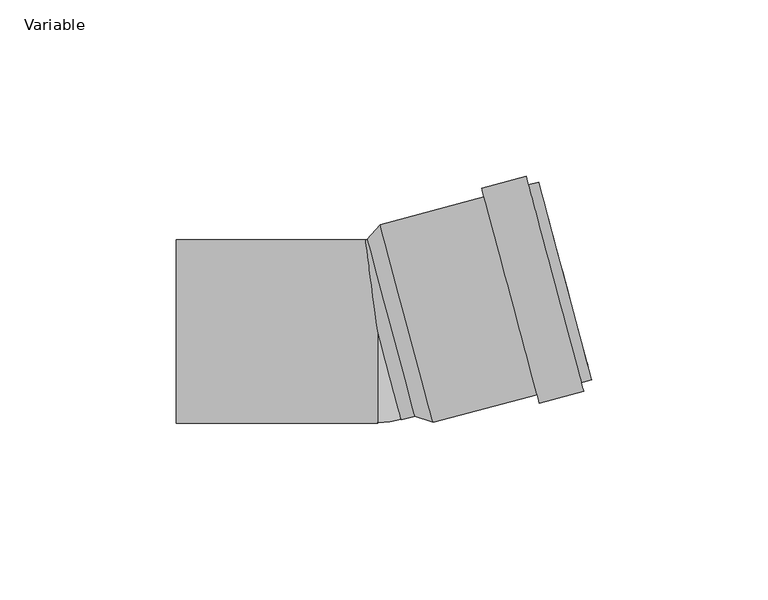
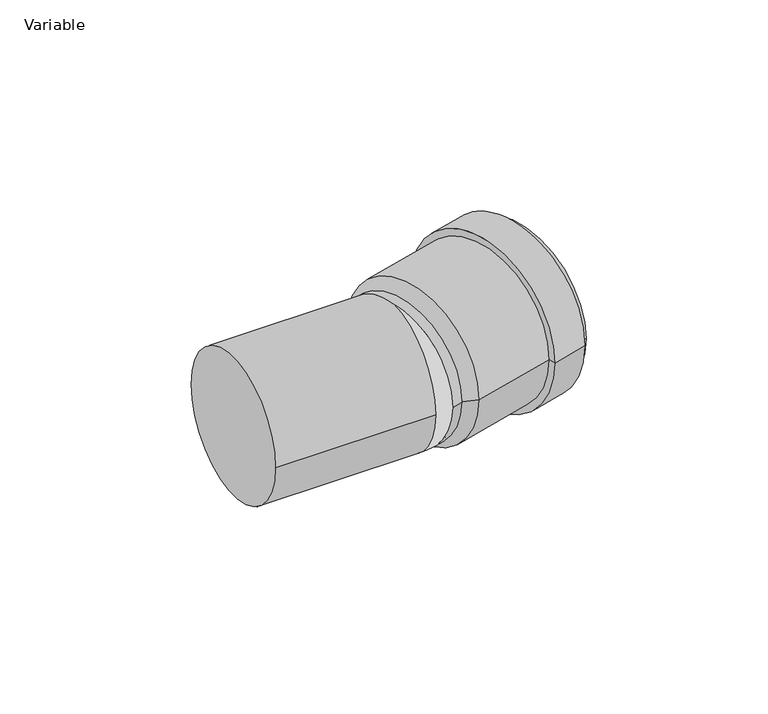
"""IFC4 building model written with IfcOpenShell, lengths in millimetres: pipe fitting geometry, AliaxisFR_Friaphon_ElbowMF_FR : Variable."""

from ifc_helpers import new_model, si_unit, point, frame, origin, place, context, project, spatial, polyline, circle_curve, ellipse_curve, trimmed, source, transform, mapped, element, save
from ifc_brep_helpers import plane_surface, cylinder_surface, revolved_surface, advanced_brep


def variable_0405d6f6(model_context):
    return source(origin(), model_context, "Body", "AdvancedBrep", [
        advanced_brep(
        [(60.6316728, -13.7768015, 0.0), (45.6201681, 42.2468964, 0.0), (46.3966253, 39.349119, 0.0), (59.8552156, -10.879024, 0.0), (45.8239071, -20.3327208, 0.0), (29.5183073, 40.5206063, 0.0), (42.075343, 43.8852539, 0.0), (58.3809429, -16.9680732, 0.0), (45.1768595, -17.9179062, 0.0), (30.1653549, 38.1057917, 0.0), (15.7161218, -25.8118871, 0.0), (0.7046172, 30.2118108, 0.0), (-2.8655919, 26.1493477, 0.0), (10.5929985, -24.0787953, 0.0), (57.7338953, -14.5532586, 0.0), (42.7223907, 41.4704393, 0.0)],
        [
            (0, 1, circle_curve(frame((53.1259204, 14.2350475, 0.0), z_axis=(0.9659258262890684, 0.25881904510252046, 0.0), x_axis=(-0.25881904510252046, 0.9659258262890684, 0.0)), 29.0)),
            (1, 2),
            (2, 3, circle_curve(frame((53.1259204, 14.2350475, 0.0), z_axis=(-0.9659258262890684, -0.25881904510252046, 0.0), x_axis=(-0.25881904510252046, 0.9659258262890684, 0.0)), 26.0)),
            (3, 0),
            (1, 0, circle_curve(frame((53.1259204, 14.2350475, 0.0), z_axis=(0.9659258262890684, 0.25881904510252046, 0.0), x_axis=(-0.25881904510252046, 0.9659258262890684, 0.0)), 29.0)),
            (3, 2, circle_curve(frame((53.1259204, 14.2350475, 0.0), z_axis=(-0.9659258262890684, -0.25881904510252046, 0.0), x_axis=(-0.25881904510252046, 0.9659258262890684, 0.0)), 26.0)),
            (4, 5, circle_curve(frame((37.6711072, 10.0939428, 0.0), z_axis=(0.9659258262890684, 0.25881904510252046, 0.0), x_axis=(-0.25881904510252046, 0.9659258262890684, 0.0)), 31.5)),
            (5, 6),
            (6, 7, circle_curve(frame((50.228143, 13.4585903, 0.0), z_axis=(-0.9659258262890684, -0.25881904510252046, 0.0), x_axis=(-0.25881904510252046, 0.9659258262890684, 0.0)), 31.5)),
            (7, 4),
            (5, 4, circle_curve(frame((37.6711072, 10.0939428, 0.0), z_axis=(0.9659258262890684, 0.25881904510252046, 0.0), x_axis=(-0.25881904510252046, 0.9659258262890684, 0.0)), 31.5)),
            (7, 6, circle_curve(frame((50.228143, 13.4585903, 0.0), z_axis=(-0.9659258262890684, -0.25881904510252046, 0.0), x_axis=(-0.25881904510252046, 0.9659258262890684, 0.0)), 31.5)),
            (8, 9, circle_curve(frame((37.6711072, 10.0939428, 0.0), z_axis=(0.9659258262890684, 0.25881904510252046, 0.0), x_axis=(-0.25881904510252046, 0.9659258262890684, 0.0)), 29.0)),
            (9, 5),
            (4, 8),
            (9, 8, circle_curve(frame((37.6711072, 10.0939428, 0.0), z_axis=(0.9659258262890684, 0.25881904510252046, 0.0), x_axis=(-0.25881904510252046, 0.9659258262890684, 0.0)), 29.0)),
            (10, 11, circle_curve(frame((8.2103695, 2.1999619, 0.0), z_axis=(0.9659258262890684, 0.25881904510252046, 0.0), x_axis=(-0.25881904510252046, 0.9659258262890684, 0.0)), 29.0)),
            (11, 9),
            (8, 10),
            (11, 10, circle_curve(frame((8.2103695, 2.1999619, 0.0), z_axis=(0.9659258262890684, 0.25881904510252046, 0.0), x_axis=(-0.25881904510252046, 0.9659258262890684, 0.0)), 29.0)),
            (2, 12),
            (12, 13, circle_curve(frame((3.8637033, 1.0352762, 0.0), z_axis=(-0.9659258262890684, -0.25881904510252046, 0.0), x_axis=(-0.25881904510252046, 0.9659258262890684, 0.0)), 26.0)),
            (13, 3),
            (13, 12, circle_curve(frame((3.8637033, 1.0352762, 0.0), z_axis=(-0.9659258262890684, -0.25881904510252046, 0.0), x_axis=(-0.25881904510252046, 0.9659258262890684, 0.0)), 26.0)),
            (12, 11),
            (10, 13),
            (14, 15, circle_curve(frame((50.228143, 13.4585903, 0.0), z_axis=(0.9659258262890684, 0.25881904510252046, 0.0), x_axis=(-0.25881904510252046, 0.9659258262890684, 0.0)), 29.0)),
            (15, 1),
            (0, 14),
            (15, 14, circle_curve(frame((50.228143, 13.4585903, 0.0), z_axis=(0.9659258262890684, 0.25881904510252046, 0.0), x_axis=(-0.25881904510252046, 0.9659258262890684, 0.0)), 29.0)),
            (6, 15),
            (14, 7),
        ],
        [
            plane_surface(frame((53.1259204, 14.2350475, 0.0), z_axis=(0.9659258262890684, 0.25881904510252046, 0.0), x_axis=(-0.25881904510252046, 0.9659258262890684, 0.0))),
            cylinder_surface(frame((3.8637033, 1.0352762, 0.0), z_axis=(-0.9659258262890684, -0.25881904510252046, 0.0), x_axis=(-0.25881904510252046, 0.9659258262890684, 0.0)), 31.5),
            plane_surface(frame((37.6711072, 10.0939428, 0.0), z_axis=(-0.9659258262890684, -0.25881904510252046, 0.0), x_axis=(-0.25881904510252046, 0.9659258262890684, 0.0))),
            cylinder_surface(frame((3.8637033, 1.0352762, 0.0), z_axis=(-0.9659258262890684, -0.25881904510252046, 0.0), x_axis=(-0.25881904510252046, 0.9659258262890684, 0.0)), 29.0),
            revolved_surface(polyline([(-2.8655918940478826, 26.149347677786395, 0.0), (46.39662530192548, 39.349118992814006, 0.0)]), (3.8637033, 1.0352762, 0.0), (-0.9659258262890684, -0.25881904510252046, 0.0)),
            revolved_surface(polyline([(0.7046172, 30.2118108, 0.0), (-2.8655919, 26.1493477, 0.0)]), (3.8637033, 1.0352762, 0.0), (-0.9659258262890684, -0.25881904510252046, 0.0)),
            plane_surface(frame((50.228143, 13.4585903, 0.0), z_axis=(0.9659258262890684, 0.25881904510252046, 0.0), x_axis=(-0.25881904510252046, 0.9659258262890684, 0.0))),
        ],
        [
            (0, [[1, 2, 3, 4]]),
            (0, [[5, -4, 6, -2]]),
            (1, [[7, 8, 9, 10]]),
            (1, [[11, -10, 12, -8]]),
            (2, [[13, 14, -7, 15]]),
            (2, [[16, -15, -11, -14]]),
            (3, [[17, 18, -13, 19]]),
            (3, [[20, -19, -16, -18]]),
            (4, [[-3, 21, 22, 23]]),
            (4, [[-6, -23, 24, -21]]),
            (5, [[-22, 25, -17, 26]]),
            (5, [[-24, -26, -20, -25]]),
            (3, [[27, 28, -1, 29]]),
            (3, [[30, -29, -5, -28]]),
            (6, [[-9, 31, -27, 32]]),
            (6, [[-12, -32, -30, -31]]),
        ],
    ),
        advanced_brep(
        [(0.0321856, 26.9258048, 0.0), (6.7614808, 1.8117333, 26.0), (13.490776, -23.3023382, 0.0), (6.7614808, 1.8117333, -26.0), (6.7292952, -25.1140715, 0.0), (-3.4229649, 26.0, 0.0), (0.0, 0.0, 26.0), (0.0, 0.0, -26.0), (-57.0, -26.0, 0.0), (-57.0, 26.0, 0.0), (0.0, -26.0, 0.0)],
        [
            (0, 1, circle_curve(frame((6.7614808, 1.8117333, 0.0), z_axis=(0.9659258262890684, 0.25881904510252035, 0.0), x_axis=(-0.25881904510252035, 0.9659258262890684, 0.0)), 26.0)),
            (1, 2, circle_curve(frame((6.7614808, 1.8117333, 0.0), z_axis=(0.9659258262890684, 0.25881904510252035, 0.0), x_axis=(-0.25881904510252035, 0.9659258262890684, 0.0)), 26.0)),
            (2, 3, circle_curve(frame((6.7614808, 1.8117333, 0.0), z_axis=(0.9659258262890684, 0.25881904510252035, 0.0), x_axis=(-0.25881904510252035, 0.9659258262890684, 0.0)), 26.0)),
            (3, 0, circle_curve(frame((6.7614808, 1.8117333, 0.0), z_axis=(0.9659258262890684, 0.25881904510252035, 0.0), x_axis=(-0.25881904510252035, 0.9659258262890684, 0.0)), 26.0)),
            (4, 2),
            (0, 5),
            (5, 6, ellipse_curve(frame((0.0, 0.0, 0.0), z_axis=(0.9914448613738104, 0.13052619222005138, 0.0), x_axis=(0.1305261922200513, -0.9914448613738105, 0.0)), 26.224353, 26.0)),
            (6, 4, circle_curve(frame((0.0, 0.0, 0.0), z_axis=(0.9659258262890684, 0.25881904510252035, 0.0), x_axis=(-0.25881904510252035, 0.9659258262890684, 0.0)), 26.0)),
            (4, 7, circle_curve(frame((0.0, 0.0, 0.0), z_axis=(0.9659258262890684, 0.25881904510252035, 0.0), x_axis=(-0.25881904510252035, 0.9659258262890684, 0.0)), 26.0)),
            (7, 5, ellipse_curve(frame((0.0, 0.0, 0.0), z_axis=(0.9914448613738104, 0.13052619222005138, 0.0), x_axis=(0.1305261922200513, -0.9914448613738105, 0.0)), 26.224353, 26.0)),
            (8, 9, circle_curve(frame((-57.0, 0.0, 0.0), z_axis=(-1.0, 0.0, 0.0), x_axis=(0.0, 1.0, 0.0)), 26.0)),
            (9, 8, circle_curve(frame((-57.0, 0.0, 0.0), z_axis=(-1.0, 0.0, 0.0), x_axis=(0.0, 1.0, 0.0)), 26.0)),
            (8, 10),
            (10, 6, circle_curve(frame((0.0, 0.0, 0.0), z_axis=(-1.0, 0.0, 0.0), x_axis=(0.0, 1.0, 0.0)), 26.0)),
            (5, 9),
            (7, 10, circle_curve(frame((0.0, 0.0, 0.0), z_axis=(-1.0, 0.0, 0.0), x_axis=(0.0, 1.0, 0.0)), 26.0)),
        ],
        [
            plane_surface(frame((6.7614808, 1.8117333, 0.0), z_axis=(0.9659258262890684, 0.25881904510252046, 0.0), x_axis=(0.0, 0.0, 1.0))),
            cylinder_surface(frame((0.0, 0.0, 0.0), z_axis=(-0.9659258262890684, -0.25881904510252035, 0.0), x_axis=(-0.25881904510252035, 0.9659258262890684, 0.0)), 26.0),
            plane_surface(frame((-57.0, 0.0, 0.0), z_axis=(-1.0, 0.0, 0.0), x_axis=(0.0, 0.0, 1.0))),
            cylinder_surface(frame((-57.0, 0.0, 0.0), z_axis=(-1.0, 0.0, 0.0), x_axis=(0.0, 1.0, 0.0)), 26.0),
            revolved_surface(trimmed(ellipse_curve(frame((0.0, 0.0, 0.0), z_axis=(0.9659258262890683, 0.2588190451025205, 0.0), x_axis=(-0.2588190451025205, 0.9659258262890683, 0.0)), 26.0, 26.0), [point((0.0, 0.0, 26.0))], [point((0.0, 0.0, -26.0))], True, "CARTESIAN"), (0.0, 0.0, 26.0), (0.0, 0.0, -1.0)),
        ],
        [
            (0, [[1, 2, 3, 4]]),
            (1, [[5, -2, -1, 6, 7, 8]]),
            (1, [[-5, 9, 10, -6, -4, -3]]),
            (2, [[11, 12]]),
            (3, [[-11, 13, 14, -7, 15]]),
            (3, [[-12, -15, -10, 16, -13]]),
            (4, [[-14, -16, -9, -8]]),
        ],
    ),
    ])


if __name__ == "__main__":
    model = new_model("IFC4")
    model_context = context("Model", 3, world=origin())
    ifc_project = project(units=[si_unit("LENGTHUNIT", "METRE", prefix="MILLI")], contexts=[model_context])
    site = spatial("IfcSite", under=ifc_project)
    building = spatial("IfcBuilding", under=site)
    placement = place(None, origin())
    variable_shape = variable_0405d6f6(model_context)
    element("IfcPipeFitting", 1, ObjectType="AliaxisFR_Friaphon_ElbowMF_FR : Variable", at=placement, inside=building, context=model_context, shape_type="MappedRepresentation", body=[
        mapped(variable_shape, transform((0.0, 0.0, 0.0), x_axis=(1.0, 0.0, 0.0), y_axis=(0.0, 1.0, 0.0), z_axis=(0.0, 0.0, 1.0))),
    ])
    save(model, "model.ifc")
